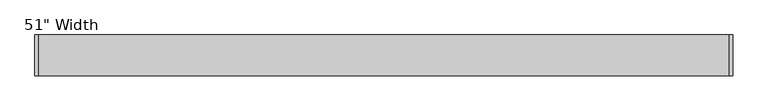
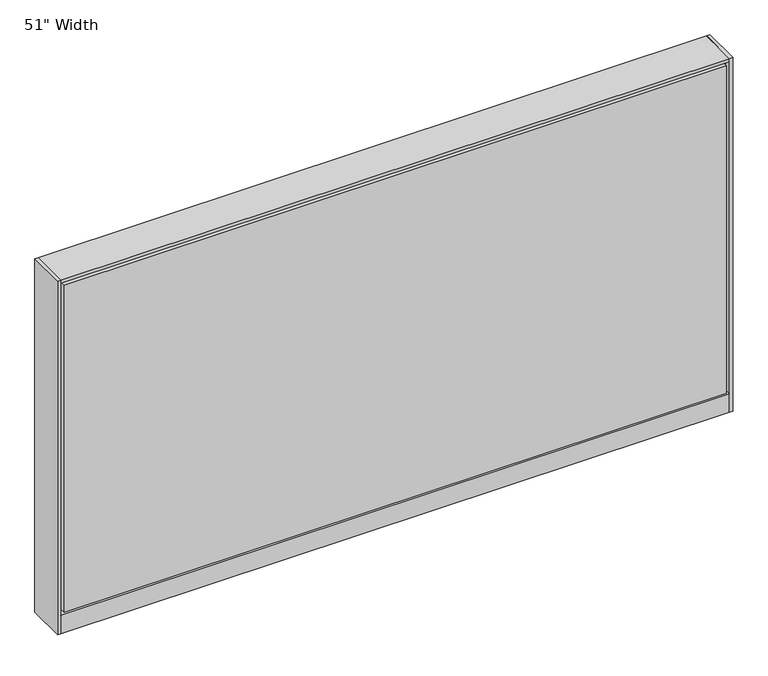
"""IFC4 building model written with IfcOpenShell, lengths in millimetres: furniture geometry."""

import ifcopenshell
import ifcopenshell.guid

model = None  # the IFC model being written
_history = None  # IfcOwnerHistory: only IFC2X3 demands one
_inside = {}  # id of a spatial element -> (the spatial element, [elements in it])
_under = {}  # id of a project, library or spatial element -> (it, [spatial elements below it])
_declared = {}  # id of a project -> (the project, [libraries it declares])
_typed = {}  # id of a type object -> (the type object, [elements of that type])
_made_of = {}  # id of a material, layer set ... -> (it, [elements and type objects made of it])


def new_model(schema):
    """Start an empty IFC model of exactly this schema.

    Asked for "IFC4X3", IfcOpenShell would pick the latest addendum, in which some entities
    have other attributes; the version numbers below select the first issue.
    IFC2X3 requires an IfcOwnerHistory on every rooted entity: one is made here for all.
    """
    global model, _history
    if schema == "IFC4X3":
        model = ifcopenshell.file(schema_version=(4, 3, 0, 0))
    else:
        model = ifcopenshell.file(schema=schema)
    _inside.clear()
    _under.clear()
    _declared.clear()
    _typed.clear()
    _made_of.clear()
    _history = None
    if model.schema == "IFC2X3":
        org = make("IfcOrganization", Name="unknown")
        user = make(
            "IfcPersonAndOrganization",
            ThePerson=make("IfcPerson", FamilyName="unknown"),
            TheOrganization=org,
        )
        app = make(
            "IfcApplication",
            ApplicationDeveloper=org,
            Version="unknown",
            ApplicationFullName="unknown",
            ApplicationIdentifier="unknown",
        )
        _history = make(
            "IfcOwnerHistory",
            OwningUser=user,
            OwningApplication=app,
            ChangeAction="ADDED",
            CreationDate=0,
        )
    return model


def make(cls, **values):
    """One entity of the class cls with the attributes given. An attribute that is None is left unset."""
    return model.create_entity(
        cls, **{name: value for name, value in values.items() if value is not None}
    )


def rooted(cls, **values):
    """An entity with a GlobalId (a new one), such as an element, a storey or a relation."""
    return make(cls, GlobalId=ifcopenshell.guid.new(), OwnerHistory=_history, **values)


def si_unit(unit_type, name, prefix=None):
    """IfcSIUnit, for example si_unit("LENGTHUNIT", "METRE", prefix="MILLI")."""
    return make("IfcSIUnit", UnitType=unit_type, Prefix=prefix, Name=name)


def assignment(units):
    """IfcUnitAssignment: the units of a project."""
    return None if units is None else make("IfcUnitAssignment", Units=units)


def point(xyz):
    """IfcCartesianPoint."""
    return None if xyz is None else make("IfcCartesianPoint", Coordinates=xyz)


def direction(xyz):
    """IfcDirection."""
    return None if xyz is None else make("IfcDirection", DirectionRatios=xyz)


def frame(location, z_axis=None, x_axis=None):
    """IfcAxis2Placement3D, a coordinate frame: its origin and axes. An axis left out is left unset."""
    return make(
        "IfcAxis2Placement3D",
        Location=point(location),
        Axis=direction(z_axis),
        RefDirection=direction(x_axis),
    )


def frame_2d(location, x_axis=None):
    """IfcAxis2Placement2D, a coordinate frame in the plane: its origin and x axis."""
    return make(
        "IfcAxis2Placement2D", Location=point(location), RefDirection=direction(x_axis)
    )


def origin():
    """The frame at (0, 0, 0) with its axes left unset."""
    return frame((0.0, 0.0, 0.0))


def origin_with_axes():
    """The frame at (0, 0, 0) with the z axis (0, 0, 1) and the x axis (1, 0, 0) written out."""
    return frame((0.0, 0.0, 0.0), z_axis=(0.0, 0.0, 1.0), x_axis=(1.0, 0.0, 0.0))


def place(relative_to, where):
    """IfcLocalPlacement: puts the frame where relative to a parent placement (None: the world)."""
    return make(
        "IfcLocalPlacement", PlacementRelTo=relative_to, RelativePlacement=where
    )


def context(
    kind, dimensions, precision=None, world=None, true_north=None, identifier=None
):
    """IfcGeometricRepresentationContext, for example the 3D "Model" context."""
    return make(
        "IfcGeometricRepresentationContext",
        ContextIdentifier=identifier,
        ContextType=kind,
        CoordinateSpaceDimension=dimensions,
        Precision=precision,
        WorldCoordinateSystem=world,
        TrueNorth=true_north,
    )


def project(units=None, contexts=None):
    """IfcProject with its units and contexts."""
    return rooted(
        "IfcProject",
        Name="project",
        RepresentationContexts=contexts,
        UnitsInContext=assignment(units),
    )


def spatial(cls, under=None, at=None, **own):
    """A site, building, storey or space (cls), placed at a placement, below another one or the project."""
    s = rooted(cls, ObjectPlacement=at, **own)
    if under is not None:
        _under.setdefault(under.id(), (under, []))[1].append(s)
    return s


def polyline(points):
    """IfcPolyline through the points."""
    return make("IfcPolyline", Points=[point(p) for p in points])


def circle_curve(where, radius):
    """IfcCircle in the frame where."""
    return make("IfcCircle", Position=where, Radius=radius)


def trimmed(basis, trim1, trim2, sense, master):
    """IfcTrimmedCurve: the piece of a basis curve between two trims."""
    return make(
        "IfcTrimmedCurve",
        BasisCurve=basis,
        Trim1=trim1,
        Trim2=trim2,
        SenseAgreement=sense,
        MasterRepresentation=master,
    )


def segment(curve, same_sense, transition):
    """IfcCompositeCurveSegment."""
    return make(
        "IfcCompositeCurveSegment",
        Transition=transition,
        SameSense=same_sense,
        ParentCurve=curve,
    )


def composite_curve(segments, self_intersect=None):
    """IfcCompositeCurve: segments joined end to end."""
    return make("IfcCompositeCurve", Segments=segments, SelfIntersect=self_intersect)


def outline(outer, holes=None, kind="AREA"):
    """IfcArbitraryClosedProfileDef: a profile drawn as a closed curve; with holes, ...WithVoids."""
    if holes is None:
        return make("IfcArbitraryClosedProfileDef", ProfileType=kind, OuterCurve=outer)
    return make(
        "IfcArbitraryProfileDefWithVoids",
        ProfileType=kind,
        OuterCurve=outer,
        InnerCurves=holes,
    )


def extrude(swept, where, along, depth):
    """IfcExtrudedAreaSolid: the profile swept, set in the frame where, extruded along a direction by depth."""
    return make(
        "IfcExtrudedAreaSolid",
        SweptArea=swept,
        Position=where,
        ExtrudedDirection=direction(along),
        Depth=depth,
    )


def shape(context_of_items, identifier, shape_type, items):
    """IfcShapeRepresentation: the items that make up one representation, for example the "Body"."""
    return make(
        "IfcShapeRepresentation",
        ContextOfItems=context_of_items,
        RepresentationIdentifier=identifier,
        RepresentationType=shape_type,
        Items=items,
    )


def source(mapping_origin, context_of_items, identifier, shape_type, items):
    """IfcRepresentationMap: a shape defined once, which mapped items show again and again."""
    return make(
        "IfcRepresentationMap",
        MappingOrigin=mapping_origin,
        MappedRepresentation=shape(context_of_items, identifier, shape_type, items),
    )


def transform(
    local_origin,
    x_axis=None,
    y_axis=None,
    z_axis=None,
    scale=None,
    scale2=None,
    scale3=None,
    uniform=True,
):
    """IfcCartesianTransformationOperator3D, or its non-uniform kind. x_axis, y_axis, z_axis: its Axis1, 2, 3."""
    if uniform:
        return make(
            "IfcCartesianTransformationOperator3D",
            Axis1=direction(x_axis),
            Axis2=direction(y_axis),
            LocalOrigin=point(local_origin),
            Scale=scale,
            Axis3=direction(z_axis),
        )
    return make(
        "IfcCartesianTransformationOperator3DnonUniform",
        Axis1=direction(x_axis),
        Axis2=direction(y_axis),
        LocalOrigin=point(local_origin),
        Scale=scale,
        Axis3=direction(z_axis),
        Scale2=scale2,
        Scale3=scale3,
    )


def mapped(mapping_source, mapping_target):
    """IfcMappedItem: shows the shape of a source again, moved by a transform."""
    return make(
        "IfcMappedItem", MappingSource=mapping_source, MappingTarget=mapping_target
    )


def made_of(thing, what):
    """Note that an element or type object is made of a material, layer set ...; save() writes the relation."""
    if what is not None:
        _made_of.setdefault(what.id(), (what, []))[1].append(thing)
    return thing


def element(
    cls,
    number,
    at=None,
    inside=None,
    cuts=None,
    type_object=None,
    material=None,
    context=None,
    identifier="Body",
    shape_type=None,
    held_by="IfcProductDefinitionShape",
    body=None,
    shapes=None,
    **own,
):
    """One element of the class cls, such as IfcWall. Its Tag is "e" and its number.

    at: its placement. inside: the storey or other place that contains it. cuts: it is an
    opening in that element (IfcRelVoidsElement). A single representation is given by context,
    identifier, shape_type and body (its items); several are given by shapes. held_by: the class
    of the entity that holds the representations. save() writes the other relations.
    """
    e = rooted(cls, Tag="e%d" % number, ObjectPlacement=at, **own)
    if body is not None:
        shapes = [shape(context, identifier, shape_type, body)]
    if shapes is not None:
        e.Representation = make(held_by, Representations=shapes)
    if inside is not None:
        _inside.setdefault(inside.id(), (inside, []))[1].append(e)
    if cuts is not None:
        rooted(
            "IfcRelVoidsElement", RelatingBuildingElement=cuts, RelatedOpeningElement=e
        )
    if type_object is not None:
        _typed.setdefault(type_object.id(), (type_object, []))[1].append(e)
    return made_of(e, material)


def aggregate(whole, parts):
    """IfcRelAggregates: a whole, such as a stair, and the parts it consists of."""
    return rooted("IfcRelAggregates", RelatingObject=whole, RelatedObjects=parts)


def save(model, path):
    """Write the relations noted so far, then the file.

    IfcRelAggregates (storeys below a building ...), IfcRelContainedInSpatialStructure (elements
    in a storey), IfcRelDefinesByType, IfcRelAssociatesMaterial and IfcRelDeclares: one each for
    every whole, place, type object, material and project.
    """
    for whole, parts in _under.values():
        aggregate(whole, parts)
    for where, things in _inside.values():
        rooted(
            "IfcRelContainedInSpatialStructure",
            RelatedElements=things,
            RelatingStructure=where,
        )
    for kind, things in _typed.values():
        rooted("IfcRelDefinesByType", RelatedObjects=things, RelatingType=kind)
    for what, things in _made_of.values():
        rooted("IfcRelAssociatesMaterial", RelatedObjects=things, RelatingMaterial=what)
    for by, libraries in _declared.values():
        rooted("IfcRelDeclares", RelatingContext=by, RelatedDefinitions=libraries)
    model.write(path)


def furniture_226d6ea9(model_context):
    return source(origin(), model_context, "Body", "SweptSolid", [
        extrude(outline(composite_curve([segment(trimmed(circle_curve(frame_2d((573.9402902, 0.0)), 12.7), [point((561.2402902, 0.0))], [point((586.6402902, 0.0))], False, "CARTESIAN"), True, "CONTINUOUS"), segment(trimmed(circle_curve(frame_2d((573.9402902, 0.0)), 12.7), [point((586.6402902, 0.0))], [point((561.2402902, 0.0))], False, "CARTESIAN"), True, "CONTINUOUS")], self_intersect=False)), origin_with_axes(), (0.0, 0.0, 1.0), 12.7),
        extrude(outline(composite_curve([segment(trimmed(circle_curve(frame_2d((-569.0597098, 0.0)), 12.7), [point((-581.7597098, 0.0))], [point((-556.3597098, 0.0))], False, "CARTESIAN"), True, "CONTINUOUS"), segment(trimmed(circle_curve(frame_2d((-569.0597098, 0.0)), 12.7), [point((-556.3597098, 0.0))], [point((-581.7597098, 0.0))], False, "CARTESIAN"), True, "CONTINUOUS")], self_intersect=False)), origin_with_axes(), (0.0, 0.0, 1.0), 12.7),
        extrude(outline(polyline([(-651.6097098, 38.1), (-645.2597098, 38.1), (-645.2597098, -38.1), (-651.6097098, -38.1), (-651.6097098, 38.1)])), frame((0.0, 0.0, 12.7), z_axis=(0.0, 0.0, 1.0), x_axis=(1.0, 0.0, 0.0)), (0.0, 0.0, 1.0), 723.9),
        extrude(outline(polyline([(656.4902902, -38.1), (650.1402902, -38.1), (650.1402902, 38.1), (656.4902902, 38.1), (656.4902902, -38.1)])), frame((0.0, 0.0, 12.7), z_axis=(0.0, 0.0, 1.0), x_axis=(1.0, 0.0, 0.0)), (0.0, 0.0, 1.0), 723.9),
        extrude(outline(polyline([(643.7902902, -38.1), (-638.9097098, -38.1), (-638.9097098, -25.4), (643.7902902, -25.4), (643.7902902, -38.1)])), frame((0.0, 0.0, 53.975), z_axis=(0.0, 0.0, 1.0), x_axis=(1.0, 0.0, 0.0)), (0.0, 0.0, 1.0), 669.925),
        extrude(outline(polyline([(643.7902902, 38.1), (643.7902902, 25.4), (-638.9097098, 25.4), (-638.9097098, 38.1), (643.7902902, 38.1)])), frame((0.0, 0.0, 53.975), z_axis=(0.0, 0.0, 1.0), x_axis=(1.0, 0.0, 0.0)), (0.0, 0.0, 1.0), 669.925),
        extrude(outline(polyline([(650.1402902, -25.4), (-645.2597098, -25.4), (-645.2597098, 25.4), (650.1402902, 25.4), (650.1402902, -25.4)])), frame((0.0, 0.0, 12.7), z_axis=(0.0, 0.0, 1.0), x_axis=(1.0, 0.0, 0.0)), (0.0, 0.0, 1.0), 717.55),
        extrude(outline(polyline([(-645.2597098, 38.1), (650.1402902, 38.1), (650.1402902, -38.1), (-645.2597098, -38.1), (-645.2597098, 38.1)])), frame((0.0, 0.0, 12.7), z_axis=(0.0, 0.0, 1.0), x_axis=(1.0, 0.0, 0.0)), (0.0, 0.0, 1.0), 38.1),
        extrude(outline(polyline([(-645.2597098, 38.1), (650.1402902, 38.1), (650.1402902, -38.1), (-645.2597098, -38.1), (-645.2597098, 38.1)])), frame((0.0, 0.0, 730.25), z_axis=(0.0, 0.0, 1.0), x_axis=(1.0, 0.0, 0.0)), (0.0, 0.0, 1.0), 6.35),
    ])


if __name__ == "__main__":
    model = new_model("IFC4")
    model_context = context("Model", 3, world=origin())
    ifc_project = project(units=[si_unit("LENGTHUNIT", "METRE", prefix="MILLI")], contexts=[model_context])
    site = spatial("IfcSite", under=ifc_project)
    building = spatial("IfcBuilding", under=site)
    placement = place(None, origin())
    furniture_shape = furniture_226d6ea9(model_context)
    element("IfcFurniture", 1, ObjectType="Haworth_Compose-Panel-Benching : 51\" Width", at=placement, inside=building, context=model_context, shape_type="MappedRepresentation", body=[
        mapped(furniture_shape, transform((0.0, 0.0, 0.0), x_axis=(1.0, 0.0, 0.0), y_axis=(0.0, 1.0, 0.0), z_axis=(0.0, 0.0, 1.0))),
    ])
    save(model, "model.ifc")
